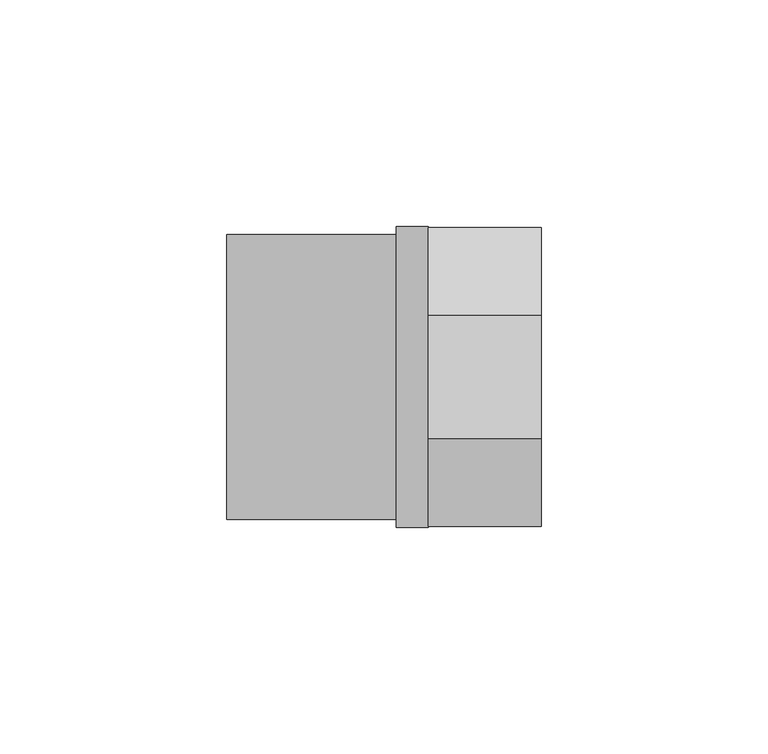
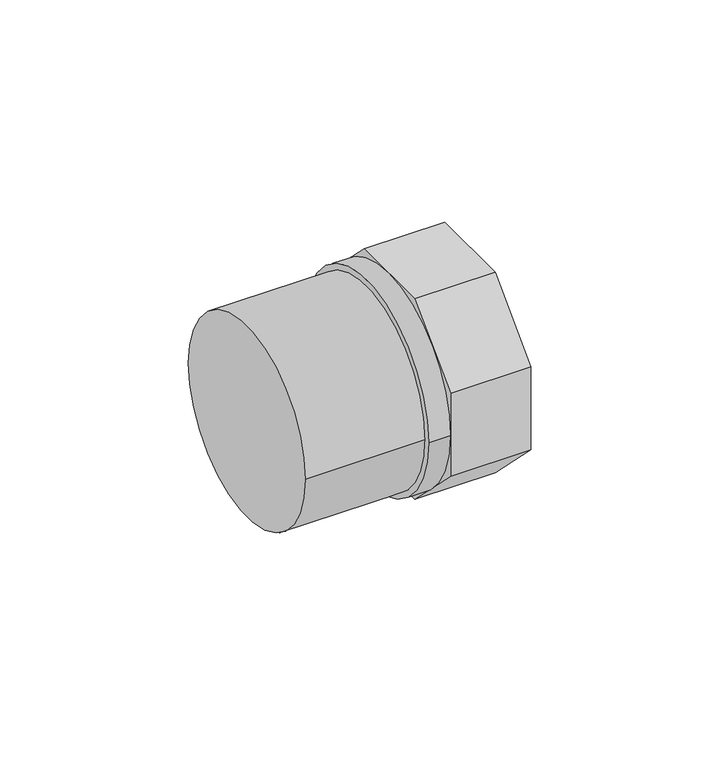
"""IFC4 building model written with IfcOpenShell, lengths in millimetres: pipe fitting geometry, PipeFitting_GirpiHTA_CPVC_ThreadedAdaptors_ForExpansionJoints : PipeFitting_GirpiHTA_CPVC_ThreadedAdaptors_ForExpansionJoints."""

from ifc_helpers import new_model, si_unit, point, frame, origin, origin_2d, place, context, project, spatial, polyline, circle_curve, trimmed, segment, composite_curve, outline, extrude, source, transform, mapped, element, save


def pipe_fitting_39144a0a(model_context):
    return source(origin(), model_context, "Body", "SweptSolid", [
        extrude(outline(polyline([(-13.6690476, 33.0), (13.6690476, 33.0), (33.0, 13.6690476), (33.0, -13.6690476), (13.6690476, -33.0), (-13.6690476, -33.0), (-33.0, -13.6690476), (-33.0, 13.6690476), (-13.6690476, 33.0)])), frame((25.75, 0.0, 0.0), z_axis=(1.0, 0.0, 0.0), x_axis=(0.0, 1.0, 0.0)), (0.0, 0.0, 1.0), 25.0),
        extrude(outline(composite_curve([segment(trimmed(circle_curve(origin_2d(), 33.25), [point((33.25, 0.0))], [point((-33.25, 0.0))], False, "CARTESIAN"), True, "CONTINUOUS"), segment(trimmed(circle_curve(origin_2d(), 33.25), [point((-33.25, 0.0))], [point((33.25, 0.0))], False, "CARTESIAN"), True, "CONTINUOUS")], self_intersect=False)), frame((18.75, 0.0, 0.0), z_axis=(1.0, 0.0, 0.0), x_axis=(0.0, 1.0, 0.0)), (0.0, 0.0, 1.0), 7.0),
        extrude(outline(composite_curve([segment(trimmed(circle_curve(origin_2d(), 31.5), [point((31.5, 0.0))], [point((-31.5, 0.0))], False, "CARTESIAN"), True, "CONTINUOUS"), segment(trimmed(circle_curve(origin_2d(), 31.5), [point((-31.5, 0.0))], [point((31.5, 0.0))], False, "CARTESIAN"), True, "CONTINUOUS")], self_intersect=False)), frame((-18.75, 0.0, 0.0), z_axis=(1.0, 0.0, 0.0), x_axis=(0.0, 1.0, 0.0)), (0.0, 0.0, 1.0), 37.5),
    ])


if __name__ == "__main__":
    model = new_model("IFC4")
    model_context = context("Model", 3, world=origin())
    ifc_project = project(units=[si_unit("LENGTHUNIT", "METRE", prefix="MILLI")], contexts=[model_context])
    site = spatial("IfcSite", under=ifc_project)
    building = spatial("IfcBuilding", under=site)
    placement = place(None, origin())
    pipe_fitting_shape = pipe_fitting_39144a0a(model_context)
    element("IfcPipeFitting", 1, ObjectType="PipeFitting_GirpiHTA_CPVC_ThreadedAdaptors_ForExpansionJoints : PipeFitting_GirpiHTA_CPVC_ThreadedAdaptors_ForExpansionJoints", at=placement, inside=building, context=model_context, shape_type="MappedRepresentation", body=[
        mapped(pipe_fitting_shape, transform((0.0, 0.0, 0.0), x_axis=(1.0, 0.0, 0.0), y_axis=(0.0, 1.0, 0.0), z_axis=(0.0, 0.0, 1.0))),
    ])
    save(model, "model.ifc")
